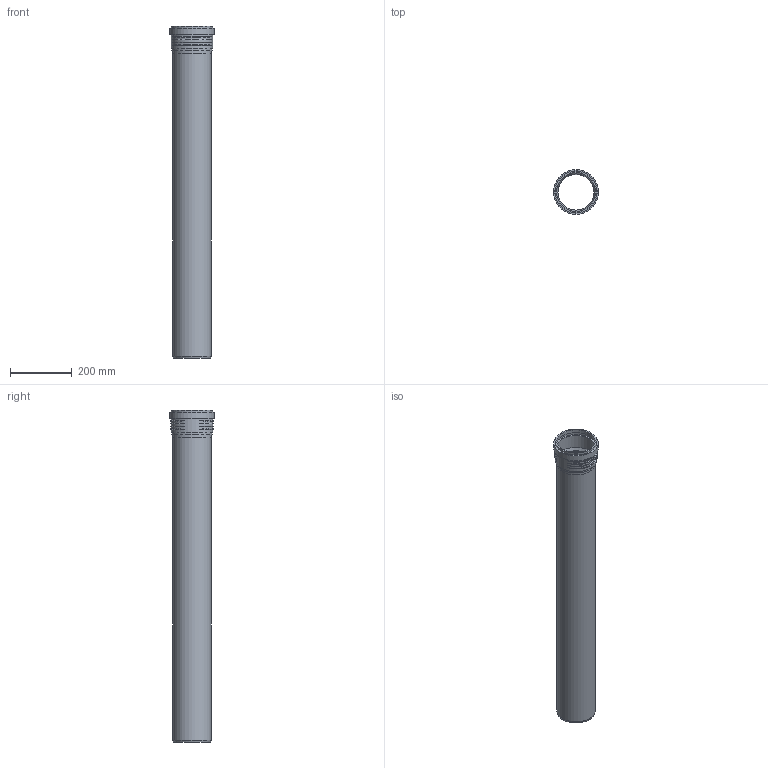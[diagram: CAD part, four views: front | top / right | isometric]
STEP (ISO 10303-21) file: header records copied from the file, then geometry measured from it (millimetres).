
FILE_DESCRIPTION(/* description */ (''),/* implementation_level */ '2;1');
FILE_NAME(/* name */ 'Z:\Geberit\Export\NewStep\390604.stp',/* time_stamp */ '2014-04-02T08:15:27+02:00',/* author */ ('ML'),/* organization */ (''),/* preprocessor_version */ 'ST-DEVELOPER v15.2',/* originating_system */ 'Autodesk Inventor 2014',/* authorisation */ '');
FILE_SCHEMA (('AUTOMOTIVE_DESIGN { 1 0 10303 214 3 1 1 }'));
Length unit declared in the file: millimetre
Products named in the file (3): 861669; 861586ohne; 390604
Bounding box: 144.95 x 144.95 x 1073.9 mm (x, y, z)
Volume: 1764782 mm3; surface area: 849003 mm2
Topology: 2 solids, 2 shells, 47 faces, 104 edges, 71 vertices
Faces by surface type: torus 24, cylinder 11, plane 10, cone 2
Full cylindrical faces by diameter (mm): 116.8 x2, 125.2 x2, 126.2 x2, 130.4 x1, 134.6 x2, 136.55 x1, 144.95 x1
Entity records: 2003 total; most frequent: CARTESIAN_POINT 962, DIRECTION 182, ORIENTED_EDGE 174, AXIS2_PLACEMENT_3D 91, EDGE_CURVE 87, EDGE_LOOP 78, VERTEX_POINT 71, STYLED_ITEM 49
